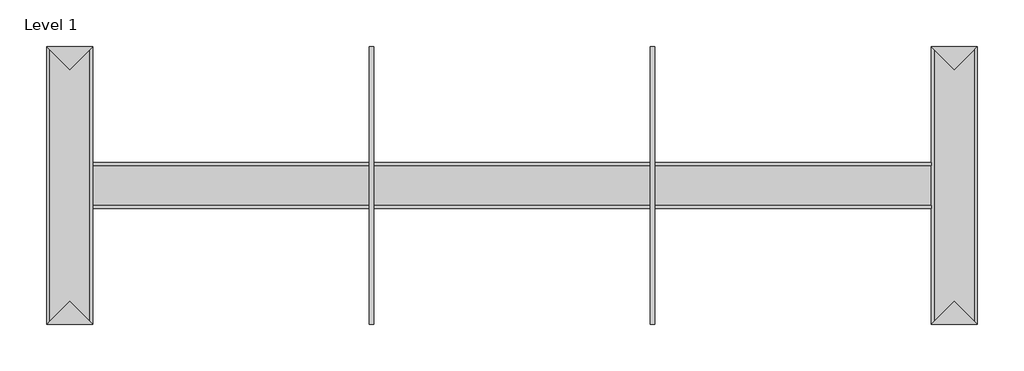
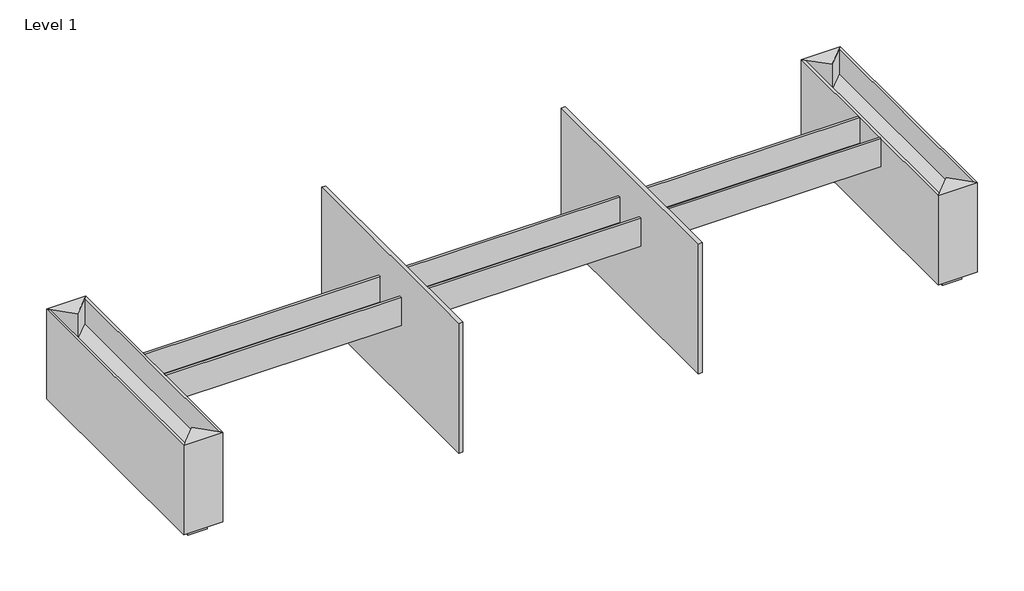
# One storey, incomplete: 7 proxies.
"""IFC4 building model written with IfcOpenShell, lengths in millimetres."""

from ifc_helpers import new_model, si_unit, origin, place, context, project, spatial, transform, mapped, element, save
from components import generic_models_5d0dc971, generic_models_53eeafc0, generic_models_7ea8982d

model = new_model("IFC4")

# Units and contexts
model_context = context("Model", 3, world=origin())
ifc_project = project(units=[si_unit("LENGTHUNIT", "METRE", prefix="MILLI")], contexts=[model_context])

# Site, building, storey
site = spatial("IfcSite", under=ifc_project)
building = spatial("IfcBuilding", under=site)
storey = spatial("IfcBuildingStorey", under=building, Name="Level 1", Elevation=0.0)

# Proxies
placement = place(None, origin())
generic_models_shape = generic_models_5d0dc971(model_context)
element("IfcBuildingElementProxy", 1, Name="ELEVATE^ADMIN_72.5x42-WOOD DIVIDER WALL", ObjectType="ELEVATE^ADMIN_72.5x42-WOOD DIVIDER WALL", at=placement, inside=storey, context=model_context, shape_type="MappedRepresentation", body=[
    mapped(generic_models_shape, transform((2133.6, -1841.5, 0.0), x_axis=(0.0, 1.0, 0.0), y_axis=(0.0, 0.0, 1.0), z_axis=(1.0, 0.0, 0.0))),
])
element("IfcBuildingElementProxy", 2, Name="ELEVATE^ADMIN_72.5x42-WOOD DIVIDER WALL", ObjectType="ELEVATE^ADMIN_72.5x42-WOOD DIVIDER WALL", at=placement, inside=storey, context=model_context, shape_type="MappedRepresentation", body=[
    mapped(generic_models_shape, transform((3994.15, -1841.5, 0.0), x_axis=(0.0, 1.0, 0.0), y_axis=(0.0, 0.0, 1.0), z_axis=(1.0, 0.0, 0.0))),
])
generic_models_2_shape = generic_models_53eeafc0(model_context)
element("IfcBuildingElementProxy", 3, Name="ELEVATE^ADMIN_12x72.5 PLANTER-32in FULL CASE", ObjectType="ELEVATE^ADMIN_12x72.5 PLANTER-32in FULL CASE", at=placement, inside=storey, context=model_context, shape_type="MappedRepresentation", body=[
    mapped(generic_models_2_shape, transform((5930.9, -76.2, 0.0), x_axis=(0.0, -1.0, 0.0), y_axis=(0.0, 0.0, 1.0), z_axis=(-1.0, 0.0, 0.0))),
])
element("IfcBuildingElementProxy", 4, Name="ELEVATE^ADMIN_12x72.5 PLANTER-32in FULL CASE", ObjectType="ELEVATE^ADMIN_12x72.5 PLANTER-32in FULL CASE", at=placement, inside=storey, context=model_context, shape_type="MappedRepresentation", body=[
    mapped(generic_models_2_shape, transform((228.6, -1765.3, 0.0), x_axis=(0.0, 1.0, 0.0), y_axis=(0.0, 0.0, 1.0), z_axis=(1.0, 0.0, 0.0))),
])
generic_models_3_shape = generic_models_7ea8982d(model_context)
element("IfcBuildingElementProxy", 5, Name="ELEVATE^ADMIN_12x72 PLANTER-WITHOUT ENDS", ObjectType="ELEVATE^ADMIN_12x72 PLANTER-WITHOUT ENDS", at=placement, inside=storey, context=model_context, shape_type="MappedRepresentation", body=[
    mapped(generic_models_3_shape, transform((2165.35, -1073.15, 584.2), x_axis=(1.0, 0.0, 0.0), y_axis=(0.0, 0.0, 1.0), z_axis=(0.0, -1.0, 0.0))),
])
element("IfcBuildingElementProxy", 6, Name="ELEVATE^ADMIN_12x72 PLANTER-WITHOUT ENDS", ObjectType="ELEVATE^ADMIN_12x72 PLANTER-WITHOUT ENDS", at=placement, inside=storey, context=model_context, shape_type="MappedRepresentation", body=[
    mapped(generic_models_3_shape, transform((4025.9, -1073.15, 584.2), x_axis=(1.0, 0.0, 0.0), y_axis=(0.0, 0.0, 1.0), z_axis=(0.0, -1.0, 0.0))),
])
element("IfcBuildingElementProxy", 7, Name="ELEVATE^ADMIN_12x72 PLANTER-WITHOUT ENDS", ObjectType="ELEVATE^ADMIN_12x72 PLANTER-WITHOUT ENDS", at=placement, inside=storey, context=model_context, shape_type="MappedRepresentation", body=[
    mapped(generic_models_3_shape, transform((304.8, -1073.15, 584.2), x_axis=(1.0, 0.0, 0.0), y_axis=(0.0, 0.0, 1.0), z_axis=(0.0, -1.0, 0.0))),
])

save(model, "model.ifc")
